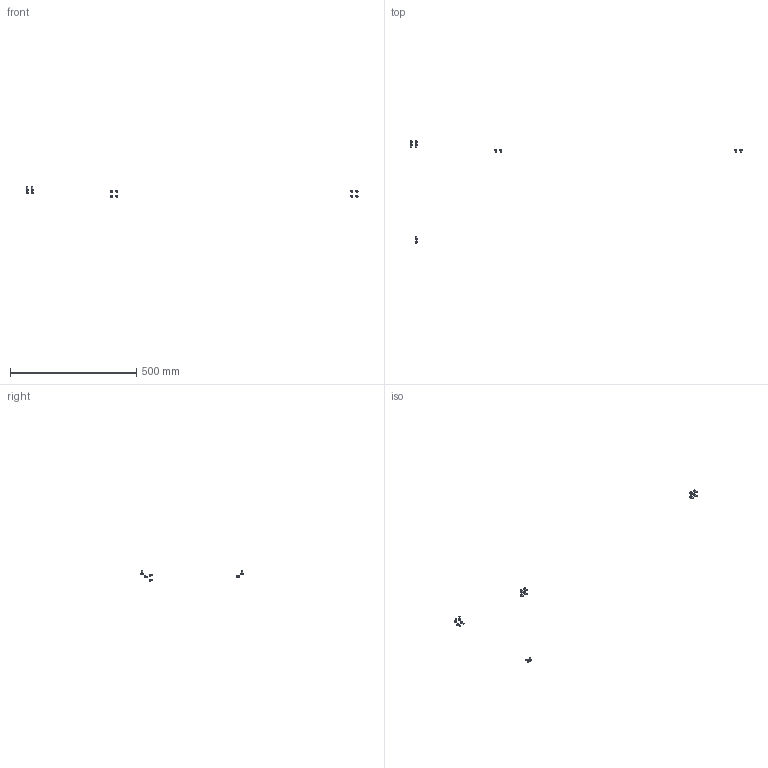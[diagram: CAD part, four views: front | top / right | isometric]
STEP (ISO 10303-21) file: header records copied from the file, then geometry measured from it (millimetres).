
FILE_DESCRIPTION(/* description */ (''),/* implementation_level */ '2;1');
FILE_NAME(/* name */ 'OPDF5C~1',/* time_stamp */ '2014-02-14T19:48:38+01:00',/* author */ (''),/* organization */ (''),/* preprocessor_version */ 'ST-DEVELOPER v14',/* originating_system */ '',/* authorisation */ '');
FILE_SCHEMA (('AUTOMOTIVE_DESIGN'));
Length unit declared in the file: millimetre
Products named in the file (2): Document; screw DIN912-like, M5x10
Assembly tree (14 placements, depth 2):
  Document
    screw DIN912-like, M5x10  x14
Bounding box: 1313.48 x 404.45 x 42.75 mm (x, y, z)
Volume: 6136.7 mm3; surface area: 5968.2 mm2
Topology: 14 solids, 14 shells, 350 faces, 784 edges, 462 vertices
Faces by surface type: plane 210, bspline 140
Entity records: 1509 total; most frequent: CARTESIAN_POINT 645, B_SPLINE_CURVE_WITH_KNOTS 126, ORIENTED_EDGE 108, PCURVE 108, DEFINITIONAL_REPRESENTATION 108, SURFACE_CURVE 54, EDGE_CURVE 54, DIRECTION 49
